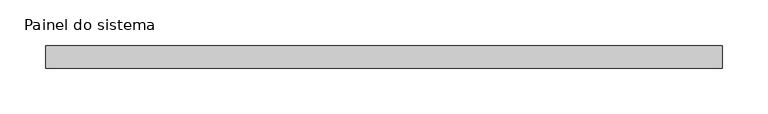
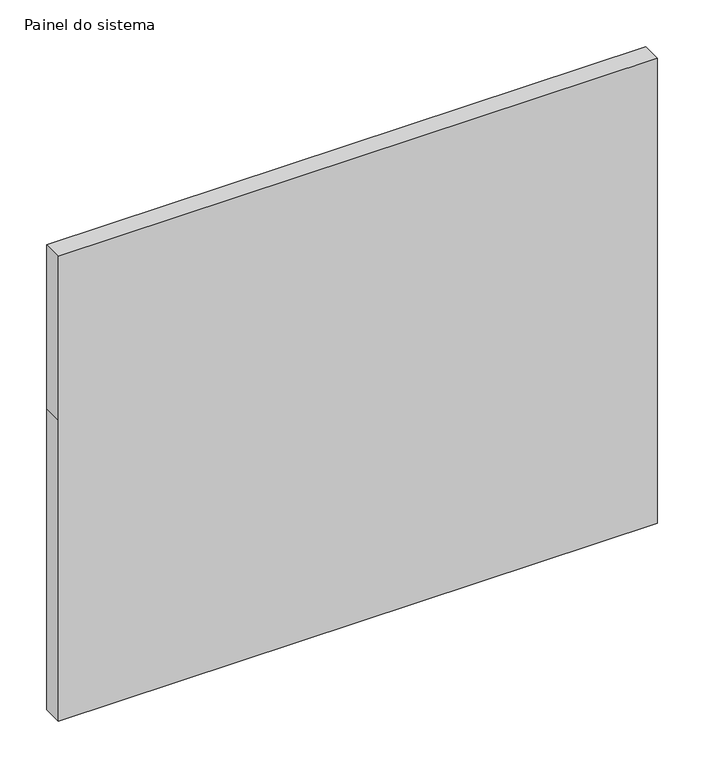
"""IFC4 building model written with IfcOpenShell, lengths in millimetres: plate geometry, Painel do sistema : Envidraçado."""

from ifc_helpers import new_model, si_unit, frame, origin, place, context, project, spatial, polyline, outline, extrude, source, transform, mapped, element, save


def painel_do_sistema_09952507(model_context):
    return source(origin(), model_context, "Body", "SweptSolid", [
        extrude(outline(polyline([(0.0, -371.6666667), (0.0, 371.6666667), (395.0, 371.6666667), (610.0, 371.6666667), (610.0, -371.6666667), (395.0, -371.6666667), (0.0, -371.6666667)])), frame((0.0, 24.5, 0.0), z_axis=(0.0, 1.0, 0.0), x_axis=(0.0, 0.0, 1.0)), (0.0, 0.0, 1.0), 25.0),
    ])


if __name__ == "__main__":
    model = new_model("IFC4")
    model_context = context("Model", 3, world=origin())
    ifc_project = project(units=[si_unit("LENGTHUNIT", "METRE", prefix="MILLI")], contexts=[model_context])
    site = spatial("IfcSite", under=ifc_project)
    building = spatial("IfcBuilding", under=site)
    placement = place(None, origin())
    painel_do_sistema_shape = painel_do_sistema_09952507(model_context)
    element("IfcPlate", 1, ObjectType="Painel do sistema : Envidraçado", at=placement, inside=building, context=model_context, shape_type="MappedRepresentation", body=[
        mapped(painel_do_sistema_shape, transform((0.0, 0.0, 0.0), x_axis=(1.0, 0.0, 0.0), y_axis=(0.0, 1.0, 0.0), z_axis=(0.0, 0.0, 1.0))),
    ])
    save(model, "model.ifc")
